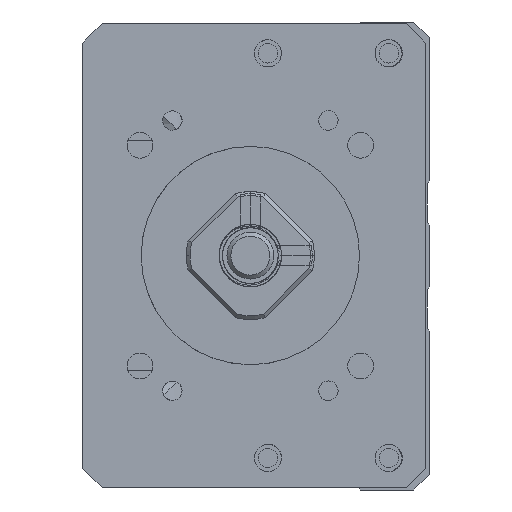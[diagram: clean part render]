
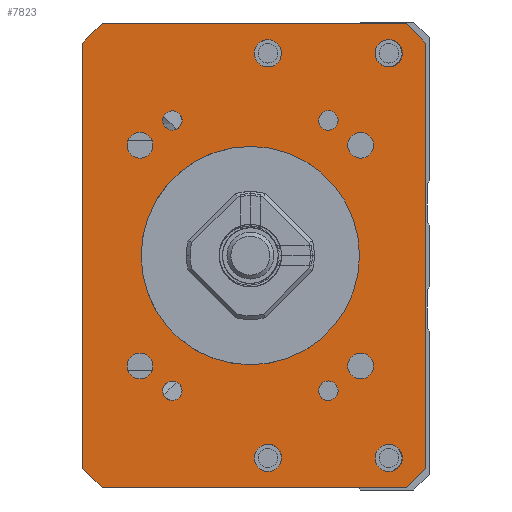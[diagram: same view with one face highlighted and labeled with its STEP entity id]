
A CAD part, left-side view. The second image highlights one B-rep face of the part: STEP entity #7823.
In plain terms, the highlighted planar face has unit normal (-1, 0, 0).
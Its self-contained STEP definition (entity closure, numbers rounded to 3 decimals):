
#4768=CIRCLE('',#15584,14.);
#4777=CIRCLE('',#15595,1.65);
#4778=CIRCLE('',#15596,1.65);
#4779=CIRCLE('',#15597,1.65);
#4780=CIRCLE('',#15598,1.65);
#4781=CIRCLE('',#15599,1.25);
#4782=CIRCLE('',#15600,1.75);
#4783=CIRCLE('',#15601,1.25);
#4784=CIRCLE('',#15602,1.75);
#4785=CIRCLE('',#15603,1.25);
#4786=CIRCLE('',#15604,1.75);
#4787=CIRCLE('',#15605,1.75);
#4788=CIRCLE('',#15606,1.25);
#5303=PLANE('',#15607);
#6168=LINE('',#19942,#6999);
#6170=LINE('',#19966,#7001);
#6171=LINE('',#19968,#7002);
#6172=LINE('',#19970,#7003);
#6173=LINE('',#19972,#7004);
#6174=LINE('',#19974,#7005);
#6175=LINE('',#19976,#7006);
#6176=LINE('',#19978,#7007);
#6999=VECTOR('',#16841,1.);
#7001=VECTOR('',#16865,1.);
#7002=VECTOR('',#16866,1.);
#7003=VECTOR('',#16867,1.);
#7004=VECTOR('',#16868,1.);
#7005=VECTOR('',#16869,1.);
#7006=VECTOR('',#16870,1.);
#7007=VECTOR('',#16871,1.);
#7823=ADVANCED_FACE('',(#8683,#8684,#8685,#8686,#8687,#8688,#8689,#8690,
#8691,#8692,#8693,#8694,#8695,#8696),#5303,.F.);
#8683=FACE_BOUND('',#9198,.T.);
#8684=FACE_BOUND('',#9199,.T.);
#8685=FACE_BOUND('',#9200,.T.);
#8686=FACE_BOUND('',#9201,.T.);
#8687=FACE_BOUND('',#9202,.T.);
#8688=FACE_BOUND('',#9203,.T.);
#8689=FACE_BOUND('',#9204,.T.);
#8690=FACE_BOUND('',#9205,.T.);
#8691=FACE_BOUND('',#9206,.T.);
#8692=FACE_BOUND('',#9207,.T.);
#8693=FACE_BOUND('',#9208,.T.);
#8694=FACE_BOUND('',#9209,.T.);
#8695=FACE_BOUND('',#9210,.T.);
#8696=FACE_BOUND('',#9211,.T.);
#9198=EDGE_LOOP('',(#10269));
#9199=EDGE_LOOP('',(#10270));
#9200=EDGE_LOOP('',(#10271));
#9201=EDGE_LOOP('',(#10272));
#9202=EDGE_LOOP('',(#10273));
#9203=EDGE_LOOP('',(#10274));
#9204=EDGE_LOOP('',(#10275));
#9205=EDGE_LOOP('',(#10276));
#9206=EDGE_LOOP('',(#10277));
#9207=EDGE_LOOP('',(#10278,#10279,#10280,#10281,#10282,#10283,#10284,#10285));
#9208=EDGE_LOOP('',(#10286));
#9209=EDGE_LOOP('',(#10287));
#9210=EDGE_LOOP('',(#10288));
#9211=EDGE_LOOP('',(#10289));
#10269=ORIENTED_EDGE('',*,*,#14092,.F.);
#10270=ORIENTED_EDGE('',*,*,#14093,.F.);
#10271=ORIENTED_EDGE('',*,*,#14094,.F.);
#10272=ORIENTED_EDGE('',*,*,#14095,.F.);
#10273=ORIENTED_EDGE('',*,*,#14096,.F.);
#10274=ORIENTED_EDGE('',*,*,#14097,.T.);
#10275=ORIENTED_EDGE('',*,*,#14098,.F.);
#10276=ORIENTED_EDGE('',*,*,#14099,.F.);
#10277=ORIENTED_EDGE('',*,*,#14100,.F.);
#10278=ORIENTED_EDGE('',*,*,#14089,.T.);
#10279=ORIENTED_EDGE('',*,*,#14101,.T.);
#10280=ORIENTED_EDGE('',*,*,#14102,.F.);
#10281=ORIENTED_EDGE('',*,*,#14103,.T.);
#10282=ORIENTED_EDGE('',*,*,#14104,.F.);
#10283=ORIENTED_EDGE('',*,*,#14105,.T.);
#10284=ORIENTED_EDGE('',*,*,#14106,.T.);
#10285=ORIENTED_EDGE('',*,*,#14107,.T.);
#10286=ORIENTED_EDGE('',*,*,#14108,.F.);
#10287=ORIENTED_EDGE('',*,*,#14109,.F.);
#10288=ORIENTED_EDGE('',*,*,#14110,.F.);
#10289=ORIENTED_EDGE('',*,*,#14069,.F.);
#13017=VERTEX_POINT('',#19865);
#13037=VERTEX_POINT('',#19941);
#13038=VERTEX_POINT('',#19943);
#13040=VERTEX_POINT('',#19949);
#13041=VERTEX_POINT('',#19951);
#13042=VERTEX_POINT('',#19953);
#13043=VERTEX_POINT('',#19955);
#13044=VERTEX_POINT('',#19957);
#13045=VERTEX_POINT('',#19959);
#13046=VERTEX_POINT('',#19961);
#13047=VERTEX_POINT('',#19963);
#13048=VERTEX_POINT('',#19965);
#13049=VERTEX_POINT('',#19967);
#13050=VERTEX_POINT('',#19969);
#13051=VERTEX_POINT('',#19971);
#13052=VERTEX_POINT('',#19973);
#13053=VERTEX_POINT('',#19975);
#13054=VERTEX_POINT('',#19977);
#13055=VERTEX_POINT('',#19980);
#13056=VERTEX_POINT('',#19982);
#13057=VERTEX_POINT('',#19984);
#14069=EDGE_CURVE('',#13017,#13017,#4768,.T.);
#14089=EDGE_CURVE('',#13038,#13037,#6168,.T.);
#14092=EDGE_CURVE('',#13040,#13040,#4777,.T.);
#14093=EDGE_CURVE('',#13041,#13041,#4778,.T.);
#14094=EDGE_CURVE('',#13042,#13042,#4779,.T.);
#14095=EDGE_CURVE('',#13043,#13043,#4780,.T.);
#14096=EDGE_CURVE('',#13044,#13044,#4781,.T.);
#14097=EDGE_CURVE('',#13045,#13045,#4782,.T.);
#14098=EDGE_CURVE('',#13046,#13046,#4783,.T.);
#14099=EDGE_CURVE('',#13047,#13047,#4784,.T.);
#14100=EDGE_CURVE('',#13048,#13048,#4785,.T.);
#14101=EDGE_CURVE('',#13037,#13049,#6170,.T.);
#14102=EDGE_CURVE('',#13050,#13049,#6171,.T.);
#14103=EDGE_CURVE('',#13050,#13051,#6172,.T.);
#14104=EDGE_CURVE('',#13052,#13051,#6173,.T.);
#14105=EDGE_CURVE('',#13052,#13053,#6174,.T.);
#14106=EDGE_CURVE('',#13053,#13054,#6175,.T.);
#14107=EDGE_CURVE('',#13054,#13038,#6176,.T.);
#14108=EDGE_CURVE('',#13055,#13055,#4786,.T.);
#14109=EDGE_CURVE('',#13056,#13056,#4787,.T.);
#14110=EDGE_CURVE('',#13057,#13057,#4788,.T.);
#15584=AXIS2_PLACEMENT_3D('',#19864,#16815,#16816);
#15595=AXIS2_PLACEMENT_3D('',#19948,#16847,#16848);
#15596=AXIS2_PLACEMENT_3D('',#19950,#16849,#16850);
#15597=AXIS2_PLACEMENT_3D('',#19952,#16851,#16852);
#15598=AXIS2_PLACEMENT_3D('',#19954,#16853,#16854);
#15599=AXIS2_PLACEMENT_3D('',#19956,#16855,#16856);
#15600=AXIS2_PLACEMENT_3D('',#19958,#16857,#16858);
#15601=AXIS2_PLACEMENT_3D('',#19960,#16859,#16860);
#15602=AXIS2_PLACEMENT_3D('',#19962,#16861,#16862);
#15603=AXIS2_PLACEMENT_3D('',#19964,#16863,#16864);
#15604=AXIS2_PLACEMENT_3D('',#19979,#16872,#16873);
#15605=AXIS2_PLACEMENT_3D('',#19981,#16874,#16875);
#15606=AXIS2_PLACEMENT_3D('',#19983,#16876,#16877);
#15607=AXIS2_PLACEMENT_3D('',#19985,#16878,#16879);
#16815=DIRECTION('',(-1.,0.,0.));
#16816=DIRECTION('',(0.,1.,0.));
#16841=DIRECTION('',(0.,0.,-1.));
#16847=DIRECTION('',(-1.,0.,0.));
#16848=DIRECTION('',(0.,0.,1.));
#16849=DIRECTION('',(-1.,0.,0.));
#16850=DIRECTION('',(0.,0.,1.));
#16851=DIRECTION('',(-1.,0.,0.));
#16852=DIRECTION('',(0.,0.,1.));
#16853=DIRECTION('',(-1.,0.,0.));
#16854=DIRECTION('',(0.,0.,1.));
#16855=DIRECTION('',(-1.,0.,0.));
#16856=DIRECTION('',(0.,1.,0.));
#16857=DIRECTION('',(1.,0.,0.));
#16858=DIRECTION('',(0.,0.,1.));
#16859=DIRECTION('',(-1.,0.,0.));
#16860=DIRECTION('',(0.,1.,0.));
#16861=DIRECTION('',(-1.,0.,0.));
#16862=DIRECTION('',(0.,0.,1.));
#16863=DIRECTION('',(-1.,0.,0.));
#16864=DIRECTION('',(0.,1.,0.));
#16865=DIRECTION('',(0.,-0.707,-0.707));
#16866=DIRECTION('',(0.,1.,0.));
#16867=DIRECTION('',(0.,-0.707,0.707));
#16868=DIRECTION('',(0.,0.,-1.));
#16869=DIRECTION('',(0.,0.707,0.707));
#16870=DIRECTION('',(0.,1.,0.));
#16871=DIRECTION('',(0.,0.707,-0.707));
#16872=DIRECTION('',(-1.,0.,0.));
#16873=DIRECTION('',(0.,0.,1.));
#16874=DIRECTION('',(-1.,0.,0.));
#16875=DIRECTION('',(0.,0.,1.));
#16876=DIRECTION('',(-1.,0.,0.));
#16877=DIRECTION('',(0.,1.,0.));
#16878=DIRECTION('',(1.,0.,0.));
#16879=DIRECTION('',(0.,-1.,0.));
#19864=CARTESIAN_POINT('',(-211.,0.,0.));
#19865=CARTESIAN_POINT('',(-211.,14.,0.));
#19941=CARTESIAN_POINT('',(-211.,21.499,-27.25));
#19942=CARTESIAN_POINT('',(-211.,21.499,29.75));
#19943=CARTESIAN_POINT('',(-211.,21.499,27.25));
#19948=CARTESIAN_POINT('',(-211.,14.142,14.142));
#19949=CARTESIAN_POINT('',(-211.,14.142,15.792));
#19950=CARTESIAN_POINT('',(-211.,-14.142,14.142));
#19951=CARTESIAN_POINT('',(-211.,-14.142,15.792));
#19952=CARTESIAN_POINT('',(-211.,14.142,-14.142));
#19953=CARTESIAN_POINT('',(-211.,14.142,-12.492));
#19954=CARTESIAN_POINT('',(-211.,-14.142,-14.142));
#19955=CARTESIAN_POINT('',(-211.,-14.142,-12.492));
#19956=CARTESIAN_POINT('',(-211.,-10.,-17.321));
#19957=CARTESIAN_POINT('',(-211.,-8.75,-17.321));
#19958=CARTESIAN_POINT('',(-211.,-2.25,-25.936));
#19959=CARTESIAN_POINT('',(-211.,-2.25,-24.186));
#19960=CARTESIAN_POINT('',(-211.,10.,17.321));
#19961=CARTESIAN_POINT('',(-211.,11.25,17.321));
#19962=CARTESIAN_POINT('',(-211.,-2.25,25.936));
#19963=CARTESIAN_POINT('',(-211.,-2.25,27.686));
#19964=CARTESIAN_POINT('',(-211.,10.,-17.321));
#19965=CARTESIAN_POINT('',(-211.,11.25,-17.321));
#19966=CARTESIAN_POINT('',(-211.,18.999,-29.75));
#19967=CARTESIAN_POINT('',(-211.,18.999,-29.75));
#19968=CARTESIAN_POINT('',(-211.,-22.501,-29.75));
#19969=CARTESIAN_POINT('',(-211.,-20.001,-29.75));
#19970=CARTESIAN_POINT('',(-211.,-22.501,-27.25));
#19971=CARTESIAN_POINT('',(-211.,-22.501,-27.25));
#19972=CARTESIAN_POINT('',(-211.,-22.501,29.75));
#19973=CARTESIAN_POINT('',(-211.,-22.501,27.25));
#19974=CARTESIAN_POINT('',(-211.,-22.501,27.25));
#19975=CARTESIAN_POINT('',(-211.,-20.001,29.75));
#19976=CARTESIAN_POINT('',(-211.,-22.501,29.75));
#19977=CARTESIAN_POINT('',(-211.,18.999,29.75));
#19978=CARTESIAN_POINT('',(-211.,18.999,29.75));
#19979=CARTESIAN_POINT('',(-211.,-17.75,25.936));
#19980=CARTESIAN_POINT('',(-211.,-17.75,27.686));
#19981=CARTESIAN_POINT('',(-211.,-17.75,-25.936));
#19982=CARTESIAN_POINT('',(-211.,-17.75,-24.186));
#19983=CARTESIAN_POINT('',(-211.,-10.,17.321));
#19984=CARTESIAN_POINT('',(-211.,-8.75,17.321));
#19985=CARTESIAN_POINT('',(-211.,-22.501,29.75));
